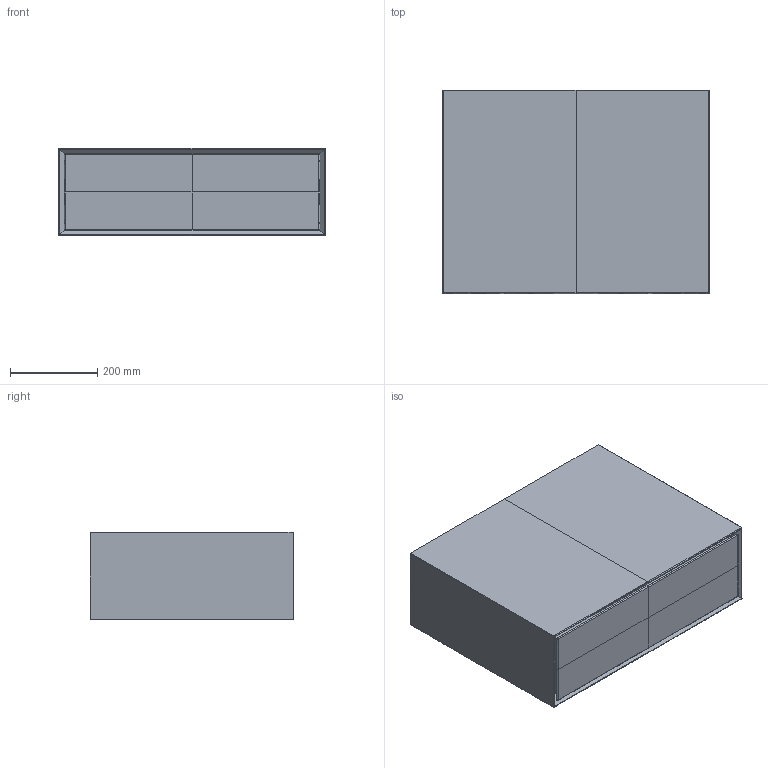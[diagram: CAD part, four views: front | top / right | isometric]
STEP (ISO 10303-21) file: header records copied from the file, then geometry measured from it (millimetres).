
FILE_DESCRIPTION(('CATIA V5 STEP Exchange'),'2;1');
FILE_NAME('C:\Users\Luca\Downloads\Art 8915 Cassetto legno-laccato 61.stp','2022-03-22T11:23:56+00:00',('none'),('none'),'CATIA Version 5 Release 19 SP 5 (IN-10)','CATIA V5 STEP AP214','none');
FILE_SCHEMA(('AUTOMOTIVE_DESIGN { 1 0 10303 214 1 1 1 1 }'));
Length unit declared in the file: millimetre
Products named in the file (1): ART 8915
Bounding box: 610 x 465.23 x 200.01 mm (x, y, z)
Volume: 16508530.2 mm3; surface area: 1894934 mm2
Topology: 3 solids, 3 shells, 89 faces, 211 edges, 115 vertices
Faces by surface type: bspline 50, plane 39
Entity records: 20503 total; most frequent: CARTESIAN_POINT 18953, ORIENTED_EDGE 398, EDGE_CURVE 199, DIRECTION 163, VERTEX_POINT 115, EDGE_LOOP 90, ADVANCED_FACE 89, FACE_OUTER_BOUND 89
